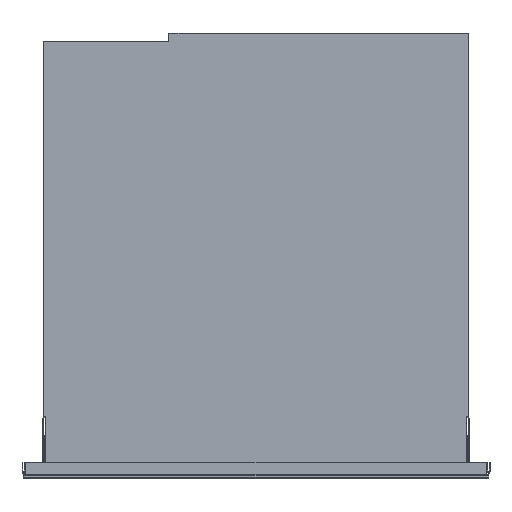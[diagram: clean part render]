
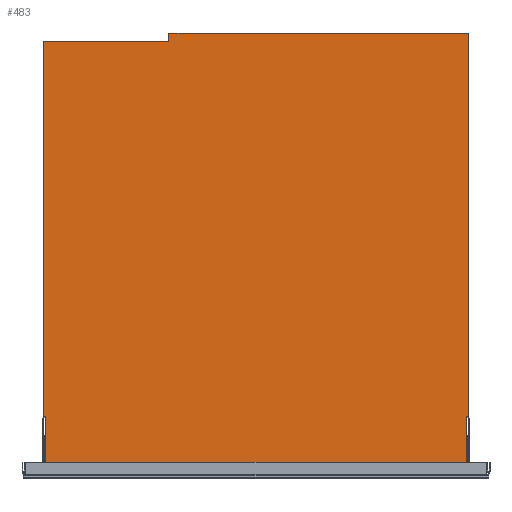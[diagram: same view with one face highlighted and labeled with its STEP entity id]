
A CAD part, top view. The second image highlights one B-rep face of the part: STEP entity #483.
In plain terms, the highlighted planar face has unit normal (0, 0, 1).
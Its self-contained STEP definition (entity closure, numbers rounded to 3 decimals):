
#483=ADVANCED_FACE('',(#779),#4432,.T.);
#779=FACE_OUTER_BOUND('',#1075,.T.);
#1075=EDGE_LOOP('',(#1378,#1379,#1380,#1381,#1382,#1383,#1384,#1385,#1386,
#1387));
#1378=ORIENTED_EDGE('',*,*,#2793,.F.);
#1379=ORIENTED_EDGE('',*,*,#2794,.F.);
#1380=ORIENTED_EDGE('',*,*,#2795,.F.);
#1381=ORIENTED_EDGE('',*,*,#2796,.F.);
#1382=ORIENTED_EDGE('',*,*,#2797,.F.);
#1383=ORIENTED_EDGE('',*,*,#2798,.F.);
#1384=ORIENTED_EDGE('',*,*,#2799,.F.);
#1385=ORIENTED_EDGE('',*,*,#2800,.F.);
#1386=ORIENTED_EDGE('',*,*,#2801,.F.);
#1387=ORIENTED_EDGE('',*,*,#2792,.F.);
#2792=EDGE_CURVE('',#3998,#3999,#3499,.T.);
#2793=EDGE_CURVE('',#4000,#3998,#3500,.T.);
#2794=EDGE_CURVE('',#4001,#4000,#3501,.T.);
#2795=EDGE_CURVE('',#4002,#4001,#3502,.T.);
#2796=EDGE_CURVE('',#4003,#4002,#3503,.T.);
#2797=EDGE_CURVE('',#4004,#4003,#3504,.T.);
#2798=EDGE_CURVE('',#4005,#4004,#3505,.T.);
#2799=EDGE_CURVE('',#4006,#4005,#3506,.T.);
#2800=EDGE_CURVE('',#4007,#4006,#3507,.T.);
#2801=EDGE_CURVE('',#3999,#4007,#3508,.T.);
#3499=B_SPLINE_CURVE_WITH_KNOTS('',1,(#4997,#4998),.UNSPECIFIED.,.F.,.F.,
(2,2),(-10.,0.),.UNSPECIFIED.);
#3500=B_SPLINE_CURVE_WITH_KNOTS('',1,(#4999,#5000),.UNSPECIFIED.,.F.,.F.,
(2,2),(-160.,0.),.UNSPECIFIED.);
#3501=B_SPLINE_CURVE_WITH_KNOTS('',1,(#5001,#5002),.UNSPECIFIED.,.F.,.F.,
(2,2),(-479.5,0.),.UNSPECIFIED.);
#3502=B_SPLINE_CURVE_WITH_KNOTS('',1,(#5003,#5004),.UNSPECIFIED.,.F.,.F.,
(2,2),(-3.,0.),.UNSPECIFIED.);
#3503=B_SPLINE_CURVE_WITH_KNOTS('',1,(#5005,#5006),.UNSPECIFIED.,.F.,.F.,
(2,2),(-58.,0.),.UNSPECIFIED.);
#3504=B_SPLINE_CURVE_WITH_KNOTS('',1,(#5007,#5008),.UNSPECIFIED.,.F.,.F.,
(2,2),(-536.,0.),.UNSPECIFIED.);
#3505=B_SPLINE_CURVE_WITH_KNOTS('',1,(#5009,#5010),.UNSPECIFIED.,.F.,.F.,
(2,2),(-58.,0.),.UNSPECIFIED.);
#3506=B_SPLINE_CURVE_WITH_KNOTS('',1,(#5011,#5012),.UNSPECIFIED.,.F.,.F.,
(2,2),(-3.,0.),.UNSPECIFIED.);
#3507=B_SPLINE_CURVE_WITH_KNOTS('',1,(#5013,#5014),.UNSPECIFIED.,.F.,.F.,
(2,2),(-489.5,0.),.UNSPECIFIED.);
#3508=B_SPLINE_CURVE_WITH_KNOTS('',1,(#5015,#5016),.UNSPECIFIED.,.F.,.F.,
(2,2),(-382.,0.),.UNSPECIFIED.);
#3998=VERTEX_POINT('',#4963);
#3999=VERTEX_POINT('',#4964);
#4000=VERTEX_POINT('',#4965);
#4001=VERTEX_POINT('',#4966);
#4002=VERTEX_POINT('',#4967);
#4003=VERTEX_POINT('',#4968);
#4004=VERTEX_POINT('',#4969);
#4005=VERTEX_POINT('',#4970);
#4006=VERTEX_POINT('',#4971);
#4007=VERTEX_POINT('',#4972);
#4432=PLANE('',#4614);
#4614=AXIS2_PLACEMENT_3D('',#4944,#4779,$);
#4779=DIRECTION('',(0.,0.,1.));
#4944=CARTESIAN_POINT('',(-346.249,9.99,587.7));
#4963=CARTESIAN_POINT('',(-131.989,602.3,587.7));
#4964=CARTESIAN_POINT('',(-131.989,612.3,587.7));
#4965=CARTESIAN_POINT('',(-291.989,602.3,587.7));
#4966=CARTESIAN_POINT('',(-291.989,122.8,587.7));
#4967=CARTESIAN_POINT('',(-288.989,122.8,587.7));
#4968=CARTESIAN_POINT('',(-288.989,64.8,587.7));
#4969=CARTESIAN_POINT('',(247.011,64.8,587.7));
#4970=CARTESIAN_POINT('',(247.011,122.8,587.7));
#4971=CARTESIAN_POINT('',(250.011,122.8,587.7));
#4972=CARTESIAN_POINT('',(250.011,612.3,587.7));
#4997=CARTESIAN_POINT('',(-131.989,602.3,587.7));
#4998=CARTESIAN_POINT('',(-131.989,612.3,587.7));
#4999=CARTESIAN_POINT('',(-291.989,602.3,587.7));
#5000=CARTESIAN_POINT('',(-131.989,602.3,587.7));
#5001=CARTESIAN_POINT('',(-291.989,122.8,587.7));
#5002=CARTESIAN_POINT('',(-291.989,602.3,587.7));
#5003=CARTESIAN_POINT('',(-288.989,122.8,587.7));
#5004=CARTESIAN_POINT('',(-291.989,122.8,587.7));
#5005=CARTESIAN_POINT('',(-288.989,64.8,587.7));
#5006=CARTESIAN_POINT('',(-288.989,122.8,587.7));
#5007=CARTESIAN_POINT('',(247.011,64.8,587.7));
#5008=CARTESIAN_POINT('',(-288.989,64.8,587.7));
#5009=CARTESIAN_POINT('',(247.011,122.8,587.7));
#5010=CARTESIAN_POINT('',(247.011,64.8,587.7));
#5011=CARTESIAN_POINT('',(250.011,122.8,587.7));
#5012=CARTESIAN_POINT('',(247.011,122.8,587.7));
#5013=CARTESIAN_POINT('',(250.011,612.3,587.7));
#5014=CARTESIAN_POINT('',(250.011,122.8,587.7));
#5015=CARTESIAN_POINT('',(-131.989,612.3,587.7));
#5016=CARTESIAN_POINT('',(250.011,612.3,587.7));
